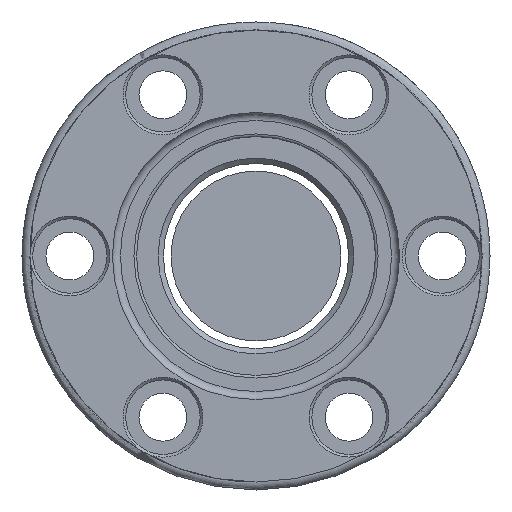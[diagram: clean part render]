
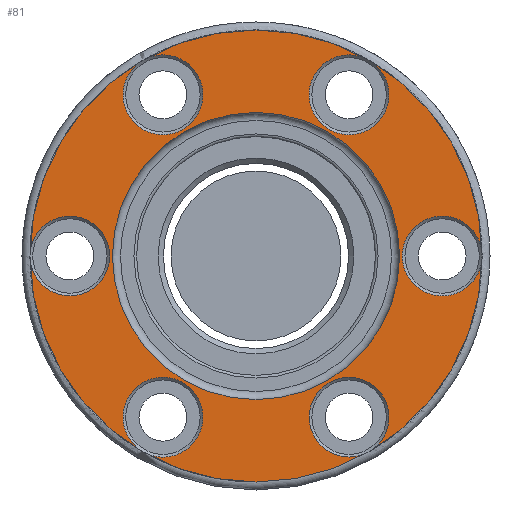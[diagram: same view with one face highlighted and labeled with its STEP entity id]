
A CAD part, front view. The second image highlights one B-rep face of the part: STEP entity #81.
In plain terms, the highlighted planar face has unit normal (0, 1, 0).
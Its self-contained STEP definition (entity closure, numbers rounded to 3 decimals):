
#65=PLANE('',#660);
#81=ADVANCED_FACE('',(#148,#149,#150,#151,#152,#153,#154,#155),#65,.F.);
#148=FACE_BOUND('',#252,.T.);
#149=FACE_BOUND('',#253,.T.);
#150=FACE_BOUND('',#254,.T.);
#151=FACE_BOUND('',#255,.T.);
#152=FACE_BOUND('',#256,.T.);
#153=FACE_BOUND('',#257,.T.);
#154=FACE_BOUND('',#258,.T.);
#155=FACE_BOUND('',#259,.T.);
#252=EDGE_LOOP('',(#356));
#253=EDGE_LOOP('',(#357));
#254=EDGE_LOOP('',(#358));
#255=EDGE_LOOP('',(#359));
#256=EDGE_LOOP('',(#360));
#257=EDGE_LOOP('',(#361));
#258=EDGE_LOOP('',(#362));
#259=EDGE_LOOP('',(#363));
#356=ORIENTED_EDGE('',*,*,#528,.T.);
#357=ORIENTED_EDGE('',*,*,#529,.T.);
#358=ORIENTED_EDGE('',*,*,#530,.T.);
#359=ORIENTED_EDGE('',*,*,#531,.T.);
#360=ORIENTED_EDGE('',*,*,#532,.T.);
#361=ORIENTED_EDGE('',*,*,#533,.T.);
#362=ORIENTED_EDGE('',*,*,#534,.T.);
#363=ORIENTED_EDGE('',*,*,#535,.F.);
#474=VERTEX_POINT('',#988);
#475=VERTEX_POINT('',#990);
#476=VERTEX_POINT('',#992);
#477=VERTEX_POINT('',#994);
#478=VERTEX_POINT('',#996);
#479=VERTEX_POINT('',#998);
#480=VERTEX_POINT('',#1000);
#481=VERTEX_POINT('',#1002);
#528=EDGE_CURVE('',#474,#474,#588,.T.);
#529=EDGE_CURVE('',#475,#475,#589,.T.);
#530=EDGE_CURVE('',#476,#476,#590,.T.);
#531=EDGE_CURVE('',#477,#477,#591,.T.);
#532=EDGE_CURVE('',#478,#478,#592,.T.);
#533=EDGE_CURVE('',#479,#479,#593,.T.);
#534=EDGE_CURVE('',#480,#480,#594,.T.);
#535=EDGE_CURVE('',#481,#481,#595,.T.);
#588=CIRCLE('',#652,42.5);
#589=CIRCLE('',#653,5.);
#590=CIRCLE('',#654,5.);
#591=CIRCLE('',#655,5.);
#592=CIRCLE('',#656,5.);
#593=CIRCLE('',#657,5.);
#594=CIRCLE('',#658,5.);
#595=CIRCLE('',#659,27.);
#652=AXIS2_PLACEMENT_3D('',#987,#769,#770);
#653=AXIS2_PLACEMENT_3D('',#989,#771,#772);
#654=AXIS2_PLACEMENT_3D('',#991,#773,#774);
#655=AXIS2_PLACEMENT_3D('',#993,#775,#776);
#656=AXIS2_PLACEMENT_3D('',#995,#777,#778);
#657=AXIS2_PLACEMENT_3D('',#997,#779,#780);
#658=AXIS2_PLACEMENT_3D('',#999,#781,#782);
#659=AXIS2_PLACEMENT_3D('',#1001,#783,#784);
#660=AXIS2_PLACEMENT_3D('',#1003,#785,#786);
#769=DIRECTION('',(0.,1.,0.));
#770=DIRECTION('',(0.,0.,-1.));
#771=DIRECTION('',(0.,-1.,0.));
#772=DIRECTION('',(0.,0.,-1.));
#773=DIRECTION('',(0.,-1.,0.));
#774=DIRECTION('',(0.,0.,-1.));
#775=DIRECTION('',(0.,-1.,0.));
#776=DIRECTION('',(0.,0.,-1.));
#777=DIRECTION('',(0.,-1.,0.));
#778=DIRECTION('',(0.,0.,-1.));
#779=DIRECTION('',(0.,-1.,0.));
#780=DIRECTION('',(0.,0.,-1.));
#781=DIRECTION('',(0.,-1.,0.));
#782=DIRECTION('',(0.,0.,-1.));
#783=DIRECTION('',(0.,1.,0.));
#784=DIRECTION('',(0.,0.,-1.));
#785=DIRECTION('',(0.,-1.,0.));
#786=DIRECTION('',(0.,0.,-1.));
#987=CARTESIAN_POINT('',(0.,16.,0.));
#988=CARTESIAN_POINT('',(0.,16.,-42.5));
#989=CARTESIAN_POINT('',(-35.,16.,0.));
#990=CARTESIAN_POINT('',(-35.,16.,-5.));
#991=CARTESIAN_POINT('',(17.5,16.,30.311));
#992=CARTESIAN_POINT('',(17.5,16.,25.311));
#993=CARTESIAN_POINT('',(17.5,16.,-30.311));
#994=CARTESIAN_POINT('',(17.5,16.,-35.311));
#995=CARTESIAN_POINT('',(35.,16.,0.));
#996=CARTESIAN_POINT('',(35.,16.,-5.));
#997=CARTESIAN_POINT('',(-17.5,16.,-30.311));
#998=CARTESIAN_POINT('',(-17.5,16.,-35.311));
#999=CARTESIAN_POINT('',(-17.5,16.,30.311));
#1000=CARTESIAN_POINT('',(-17.5,16.,25.311));
#1001=CARTESIAN_POINT('',(0.,16.,0.));
#1002=CARTESIAN_POINT('',(0.,16.,-27.));
#1003=CARTESIAN_POINT('',(0.,16.,0.));
